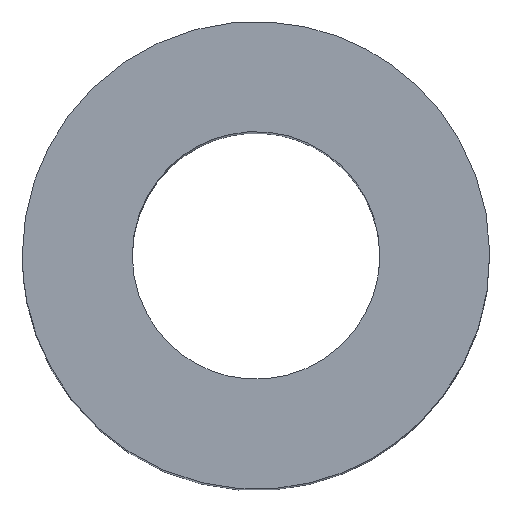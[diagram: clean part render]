
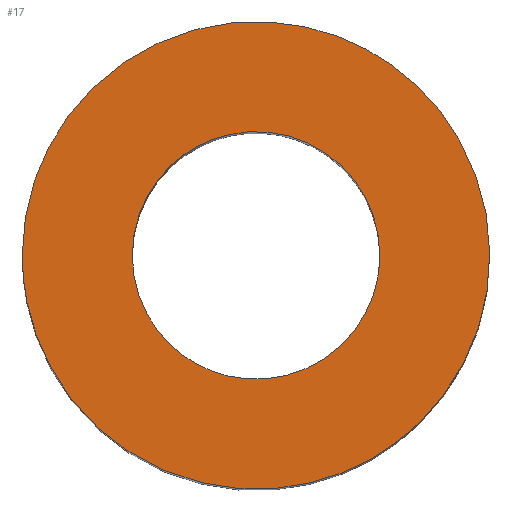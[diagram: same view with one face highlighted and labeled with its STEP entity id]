
A CAD part, top view. The second image highlights one B-rep face of the part: STEP entity #17.
In plain terms, the highlighted free-form (B-spline) face has degree [1, 1] with [2, 2] control points.
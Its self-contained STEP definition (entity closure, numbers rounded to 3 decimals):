
#17 = ADVANCED_FACE('',(#18,#32),#46,.T.);
#18 = FACE_BOUND('',#19,.T.);
#19 = EDGE_LOOP('',(#20));
#20 = ORIENTED_EDGE('',*,*,#21,.F.);
#21 = EDGE_CURVE('',#22,#22,#24,.T.);
#22 = VERTEX_POINT('',#23);
#23 = CARTESIAN_POINT('',(1.35,0.,9.));
#24 = ( BOUNDED_CURVE() B_SPLINE_CURVE(2,(#25,#26,#27,#28,#29,#30,#31),
.UNSPECIFIED.,.T.,.F.) B_SPLINE_CURVE_WITH_KNOTS((1,2,2,2,2,1),(
    -2.094,0.,2.094,4.189,6.283,
8.378),.UNSPECIFIED.) CURVE() GEOMETRIC_REPRESENTATION_ITEM() 
RATIONAL_B_SPLINE_CURVE((1.,0.5,1.,0.5,1.,0.5,1.)) REPRESENTATION_ITEM(
  '') );
#25 = CARTESIAN_POINT('',(1.35,0.,9.));
#26 = CARTESIAN_POINT('',(1.35,2.338,9.));
#27 = CARTESIAN_POINT('',(-0.675,1.169,9.));
#28 = CARTESIAN_POINT('',(-2.7,0.,9.));
#29 = CARTESIAN_POINT('',(-0.675,-1.169,9.));
#30 = CARTESIAN_POINT('',(1.35,-2.338,9.));
#31 = CARTESIAN_POINT('',(1.35,0.,9.));
#32 = FACE_BOUND('',#33,.T.);
#33 = EDGE_LOOP('',(#34));
#34 = ORIENTED_EDGE('',*,*,#35,.F.);
#35 = EDGE_CURVE('',#36,#36,#38,.T.);
#36 = VERTEX_POINT('',#37);
#37 = CARTESIAN_POINT('',(-2.55,0.,9.));
#38 = ( BOUNDED_CURVE() B_SPLINE_CURVE(2,(#39,#40,#41,#42,#43,#44,#45),
.UNSPECIFIED.,.T.,.F.) B_SPLINE_CURVE_WITH_KNOTS((1,2,2,2,2,1),(
    -2.094,0.,2.094,4.189,6.283,
8.378),.UNSPECIFIED.) CURVE() GEOMETRIC_REPRESENTATION_ITEM() 
RATIONAL_B_SPLINE_CURVE((1.,0.5,1.,0.5,1.,0.5,1.)) REPRESENTATION_ITEM(
  '') );
#39 = CARTESIAN_POINT('',(-2.55,0.,9.));
#40 = CARTESIAN_POINT('',(-2.55,4.417,9.));
#41 = CARTESIAN_POINT('',(1.275,2.208,9.));
#42 = CARTESIAN_POINT('',(5.1,0.,9.));
#43 = CARTESIAN_POINT('',(1.275,-2.208,9.));
#44 = CARTESIAN_POINT('',(-2.55,-4.417,9.));
#45 = CARTESIAN_POINT('',(-2.55,0.,9.));
#46 = B_SPLINE_SURFACE_WITH_KNOTS('',1,1,(
    (#47,#48)
    ,(#49,#50
    )),.UNSPECIFIED.,.F.,.F.,.F.,(2,2),(2,2),(0.,5.1),(
    -2.55,2.55),.PIECEWISE_BEZIER_KNOTS.);
#47 = CARTESIAN_POINT('',(-2.55,-2.55,9.));
#48 = CARTESIAN_POINT('',(-2.55,2.55,9.));
#49 = CARTESIAN_POINT('',(2.55,-2.55,9.));
#50 = CARTESIAN_POINT('',(2.55,2.55,9.));
